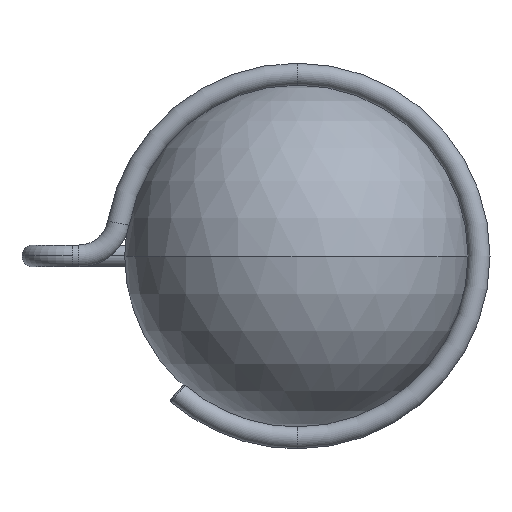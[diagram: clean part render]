
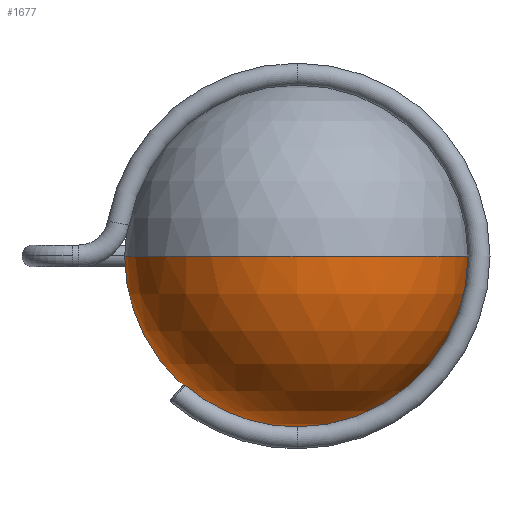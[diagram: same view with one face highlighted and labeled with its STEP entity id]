
A CAD part, front view. The second image highlights one B-rep face of the part: STEP entity #1677.
In plain terms, the highlighted spherical face has radius 110 mm.
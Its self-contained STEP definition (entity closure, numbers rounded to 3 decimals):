
#99 = CIRCLE ( 'NONE', #975, 66.201 ) ;
#163 = DIRECTION ( 'NONE',  ( 0., 0., -1. ) ) ;
#180 = DIRECTION ( 'NONE',  ( 0., -1., 0. ) ) ;
#231 = CIRCLE ( 'NONE', #2961, 110. ) ;
#234 = CARTESIAN_POINT ( 'NONE',  ( 0., 0., 0. ) ) ;
#340 = EDGE_CURVE ( 'NONE', #1799, #1647, #231, .T. ) ;
#386 = ORIENTED_EDGE ( 'NONE', *, *, #703, .F. ) ;
#486 = DIRECTION ( 'NONE',  ( 1., 0., 0. ) ) ;
#647 = CARTESIAN_POINT ( 'NONE',  ( 0., 87.849, 0. ) ) ;
#688 = VERTEX_POINT ( 'NONE', #4176 ) ;
#703 = EDGE_CURVE ( 'NONE', #688, #1647, #3385, .T. ) ;
#945 = DIRECTION ( 'NONE',  ( 0., -1., 0. ) ) ;
#975 = AXIS2_PLACEMENT_3D ( 'NONE', #647, #945, #4214 ) ;
#1457 = DIRECTION ( 'NONE',  ( -1., 0., 0. ) ) ;
#1546 = DIRECTION ( 'NONE',  ( -1., 0., 0. ) ) ;
#1647 = VERTEX_POINT ( 'NONE', #1995 ) ;
#1677 = ADVANCED_FACE ( 'NONE', ( #2148 ), #2834, .T. ) ;
#1680 = AXIS2_PLACEMENT_3D ( 'NONE', #2079, #180, #3801 ) ;
#1799 = VERTEX_POINT ( 'NONE', #2874 ) ;
#1841 = ORIENTED_EDGE ( 'NONE', *, *, #1850, .T. ) ;
#1850 = EDGE_CURVE ( 'NONE', #3212, #1799, #99, .T. ) ;
#1995 = CARTESIAN_POINT ( 'NONE',  ( 0., -110., 0. ) ) ;
#2079 = CARTESIAN_POINT ( 'NONE',  ( 0., 87.849, 0. ) ) ;
#2133 = AXIS2_PLACEMENT_3D ( 'NONE', #3402, #163, #1457 ) ;
#2148 = FACE_OUTER_BOUND ( 'NONE', #3137, .T. ) ;
#2182 = ORIENTED_EDGE ( 'NONE', *, *, #2478, .T. ) ;
#2433 = CARTESIAN_POINT ( 'NONE',  ( 0., 0., 0. ) ) ;
#2478 = EDGE_CURVE ( 'NONE', #688, #3212, #2832, .T. ) ;
#2586 = CARTESIAN_POINT ( 'NONE',  ( 0., 87.849, -66.201 ) ) ;
#2832 = CIRCLE ( 'NONE', #1680, 66.201 ) ;
#2834 = SPHERICAL_SURFACE ( 'NONE', #2133, 110. ) ;
#2843 = DIRECTION ( 'NONE',  ( 0., 0., -1. ) ) ;
#2874 = CARTESIAN_POINT ( 'NONE',  ( 66.201, 87.849, 0. ) ) ;
#2961 = AXIS2_PLACEMENT_3D ( 'NONE', #234, #2843, #1546 ) ;
#3137 = EDGE_LOOP ( 'NONE', ( #2182, #1841, #4081, #386 ) ) ;
#3212 = VERTEX_POINT ( 'NONE', #2586 ) ;
#3385 = CIRCLE ( 'NONE', #3510, 110. ) ;
#3402 = CARTESIAN_POINT ( 'NONE',  ( 0., 0., 0. ) ) ;
#3422 = DIRECTION ( 'NONE',  ( 0., 0., 1. ) ) ;
#3510 = AXIS2_PLACEMENT_3D ( 'NONE', #2433, #3422, #486 ) ;
#3801 = DIRECTION ( 'NONE',  ( 0., 0., -1. ) ) ;
#4081 = ORIENTED_EDGE ( 'NONE', *, *, #340, .T. ) ;
#4176 = CARTESIAN_POINT ( 'NONE',  ( -66.201, 87.849, 0. ) ) ;
#4214 = DIRECTION ( 'NONE',  ( 0., 0., -1. ) ) ;
